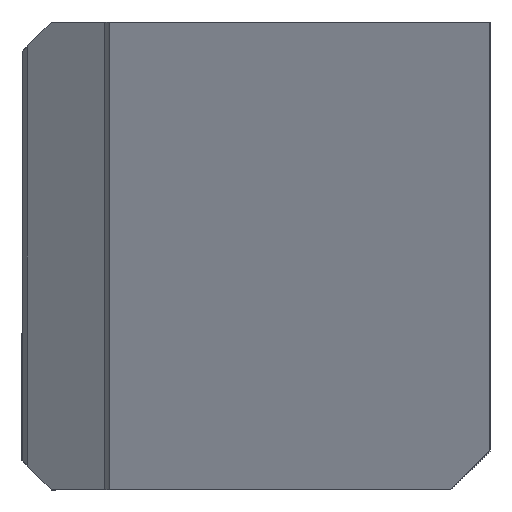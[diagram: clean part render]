
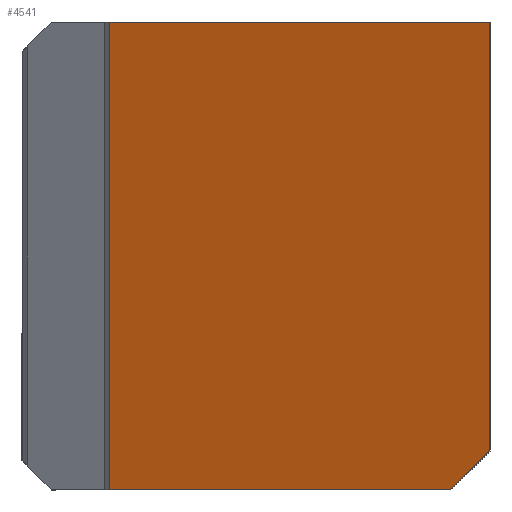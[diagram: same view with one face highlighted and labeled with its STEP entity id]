
A CAD part, left-side view. The second image highlights one B-rep face of the part: STEP entity #4541.
In plain terms, the highlighted planar face has unit normal (-0.943, 0, -0.334).
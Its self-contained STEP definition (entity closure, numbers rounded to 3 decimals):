
#523 = CARTESIAN_POINT ( 'NONE',  ( 0., 0., 0. ) ) ;
#546 = EDGE_CURVE ( 'NONE', #6294, #3189, #21423, .T. ) ;
#1011 = EDGE_CURVE ( 'NONE', #6294, #17258, #13654, .T. ) ;
#1814 = CARTESIAN_POINT ( 'NONE',  ( 0., 24., 0. ) ) ;
#2082 = LINE ( 'NONE', #1814, #8159 ) ;
#2504 = EDGE_CURVE ( 'NONE', #17258, #3193, #21321, .T. ) ;
#2687 = DIRECTION ( 'NONE',  ( -0.942, 0., -0.334 ) ) ;
#3113 = CARTESIAN_POINT ( 'NONE',  ( 7.803, 0., -22. ) ) ;
#3189 = VERTEX_POINT ( 'NONE', #3113 ) ;
#3193 = VERTEX_POINT ( 'NONE', #3605 ) ;
#3581 = CARTESIAN_POINT ( 'NONE',  ( 8.512, 2., -24. ) ) ;
#3605 = CARTESIAN_POINT ( 'NONE',  ( 0., 19.5, 0. ) ) ;
#4541 = ADVANCED_FACE ( 'NONE', ( #23172 ), #4698, .T. ) ;
#4698 = PLANE ( 'NONE',  #8039 ) ;
#4738 = CARTESIAN_POINT ( 'NONE',  ( 0., 19.5, 0. ) ) ;
#5117 = ORIENTED_EDGE ( 'NONE', *, *, #1011, .F. ) ;
#6086 = EDGE_CURVE ( 'NONE', #3193, #19032, #2082, .T. ) ;
#6294 = VERTEX_POINT ( 'NONE', #3581 ) ;
#6913 = LINE ( 'NONE', #9063, #9255 ) ;
#8039 = AXIS2_PLACEMENT_3D ( 'NONE', #8502, #2687, #16816 ) ;
#8159 = VECTOR ( 'NONE', #22567, 1000. ) ;
#8502 = CARTESIAN_POINT ( 'NONE',  ( 0., 0., 0. ) ) ;
#9063 = CARTESIAN_POINT ( 'NONE',  ( 8.512, 0., -24. ) ) ;
#9255 = VECTOR ( 'NONE', #17120, 1000. ) ;
#9554 = CARTESIAN_POINT ( 'NONE',  ( 8.512, 24., -24. ) ) ;
#10701 = VECTOR ( 'NONE', #13165, 1000. ) ;
#13165 = DIRECTION ( 'NONE',  ( -0.334, 0., 0.942 ) ) ;
#13654 = LINE ( 'NONE', #9554, #15023 ) ;
#13727 = EDGE_LOOP ( 'NONE', ( #5117, #22107, #13759, #17388, #15912 ) ) ;
#13759 = ORIENTED_EDGE ( 'NONE', *, *, #26062, .F. ) ;
#15023 = VECTOR ( 'NONE', #25838, 1000. ) ;
#15192 = DIRECTION ( 'NONE',  ( -0.243, -0.686, 0.686 ) ) ;
#15912 = ORIENTED_EDGE ( 'NONE', *, *, #2504, .F. ) ;
#16816 = DIRECTION ( 'NONE',  ( -0.334, 0., 0.942 ) ) ;
#17120 = DIRECTION ( 'NONE',  ( 0.334, 0., -0.942 ) ) ;
#17258 = VERTEX_POINT ( 'NONE', #18088 ) ;
#17388 = ORIENTED_EDGE ( 'NONE', *, *, #6086, .F. ) ;
#18088 = CARTESIAN_POINT ( 'NONE',  ( 8.512, 19.5, -24. ) ) ;
#19032 = VERTEX_POINT ( 'NONE', #523 ) ;
#21321 = LINE ( 'NONE', #4738, #10701 ) ;
#21423 = LINE ( 'NONE', #22950, #23635 ) ;
#22107 = ORIENTED_EDGE ( 'NONE', *, *, #546, .T. ) ;
#22567 = DIRECTION ( 'NONE',  ( 0., -1., 0. ) ) ;
#22950 = CARTESIAN_POINT ( 'NONE',  ( 3.671, -11.651, -10.349 ) ) ;
#23172 = FACE_OUTER_BOUND ( 'NONE', #13727, .T. ) ;
#23635 = VECTOR ( 'NONE', #15192, 1000. ) ;
#25838 = DIRECTION ( 'NONE',  ( 0., 1., 0. ) ) ;
#26062 = EDGE_CURVE ( 'NONE', #19032, #3189, #6913, .T. ) ;
